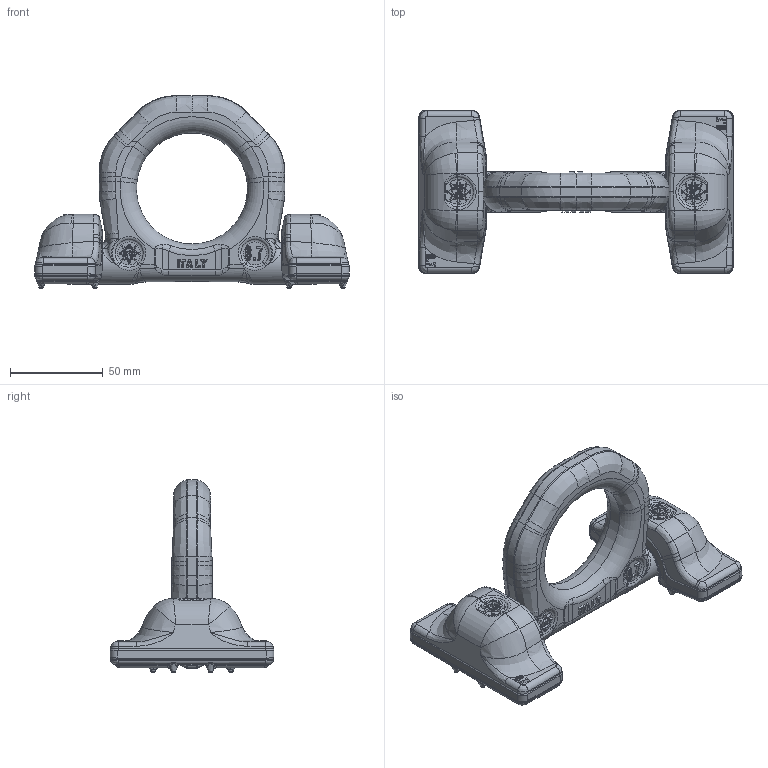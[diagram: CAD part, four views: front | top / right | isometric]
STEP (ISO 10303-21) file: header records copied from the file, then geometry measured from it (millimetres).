
FILE_DESCRIPTION((''),'2;1');
FILE_NAME('GFC-2442-0000 GFC-2443-0000 montaggio 90°','2013-12-04T16:38:06',('Luca'),(''),'CADlook_v9.0','Cimatron E 8.0','');
FILE_SCHEMA(('AUTOMOTIVE_DESIGN { 1 2 10303 214 0 1 1 1 }'));
Length unit declared in the file: millimetre
Bounding box: 170.2 x 88.4 x 104.25 mm (x, y, z)
Volume: 124120.9 mm3; surface area: 46495.9 mm2
Topology: 2 solids, 3 shells, 1250 faces, 3109 edges, 1857 vertices
Faces by surface type: bspline 606, plane 337, cylinder 167, cone 68, torus 40, sphere 32
Full cylindrical faces by diameter (mm): 60 x1
Entity records: 100647 total; most frequent: CARTESIAN_POINT 65207, ORIENTED_EDGE 6090, DIRECTION 4083, EDGE_CURVE 3051, VERTEX_POINT 1857, AXIS2_PLACEMENT_3D 1509, EDGE_LOOP 1306, COLOUR_RGB 1253
